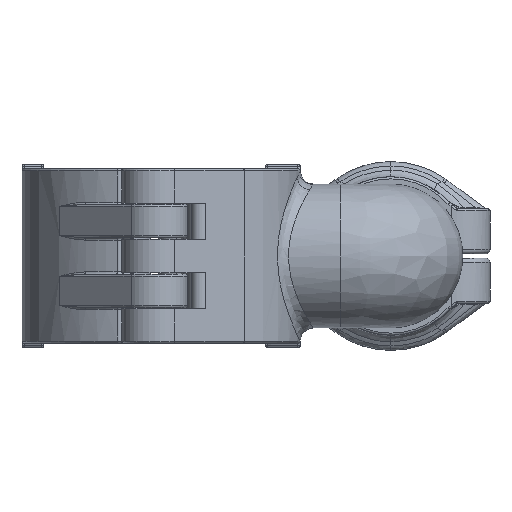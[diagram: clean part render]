
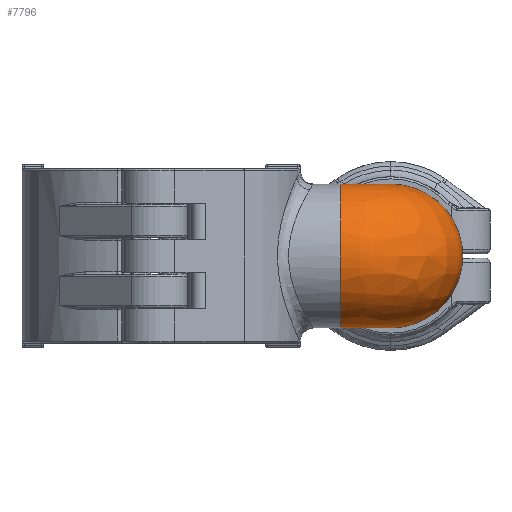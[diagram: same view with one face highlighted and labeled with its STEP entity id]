
A CAD part, left-side view. The second image highlights one B-rep face of the part: STEP entity #7796.
In plain terms, the highlighted free-form (B-spline) face has degree [3, 3] with [4, 7] control points.
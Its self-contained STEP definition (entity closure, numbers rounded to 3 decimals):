
#3087=CARTESIAN_POINT('',(8.93,-43.208,14.107));
#3172=CARTESIAN_POINT('',(0.,-43.209,
0.));
#3173=DIRECTION('',(0.,1.,0.));
#3174=DIRECTION('',(0.535,0.,-0.845));
#3175=AXIS2_PLACEMENT_3D('',#3172,#3173,#3174);
#3180=CARTESIAN_POINT('',(0.,-43.209,
0.));
#3181=DIRECTION('',(0.,1.,0.));
#3182=DIRECTION('',(0.,0.,-1.));
#3183=AXIS2_PLACEMENT_3D('',#3180,#3181,#3182);
#3188=CARTESIAN_POINT('',(0.,-43.209,
0.));
#3189=DIRECTION('',(0.,1.,0.));
#3190=DIRECTION('',(0.,0.,1.));
#3191=AXIS2_PLACEMENT_3D('',#3188,#3189,#3190);
#3196=CARTESIAN_POINT('',(8.93,-43.208,14.107));
#3197=CARTESIAN_POINT('',(9.012,-43.487,14.055));
#3198=CARTESIAN_POINT('',(9.227,-44.001,13.973));
#3199=CARTESIAN_POINT('',(9.652,-44.642,13.912));
#3200=CARTESIAN_POINT('',(10.236,-45.22,13.914));
#3201=CARTESIAN_POINT('',(10.867,-45.627,13.976));
#3202=CARTESIAN_POINT('',(11.367,-45.836,14.057));
#3203=CARTESIAN_POINT('',(11.637,-45.915,14.107));
#3208=CARTESIAN_POINT('',(11.637,-54.845,
0.));
#3209=DIRECTION('',(1.,0.,0.));
#3210=DIRECTION('',(0.,0.535,0.845));
#3211=AXIS2_PLACEMENT_3D('',#3208,#3209,#3210);
#3216=CARTESIAN_POINT('',(11.637,-54.845,
0.));
#3217=DIRECTION('',(1.,0.,0.));
#3218=DIRECTION('',(0.,0.,1.));
#3219=AXIS2_PLACEMENT_3D('',#3216,#3217,#3218);
#3224=CARTESIAN_POINT('',(11.637,-54.845,
0.));
#3225=DIRECTION('',(1.,0.,0.));
#3226=DIRECTION('',(0.,0.,-1.));
#3227=AXIS2_PLACEMENT_3D('',#3224,#3225,#3226);
#3232=CARTESIAN_POINT('',(11.637,-45.915,
-14.107));
#3233=CARTESIAN_POINT('',(11.358,-45.833,
-14.056));
#3234=CARTESIAN_POINT('',(10.844,-45.618,
-13.973));
#3235=CARTESIAN_POINT('',(10.202,-45.192,
-13.912));
#3236=CARTESIAN_POINT('',(9.624,-44.608,
-13.915));
#3237=CARTESIAN_POINT('',(9.218,-43.978,
-13.976));
#3238=CARTESIAN_POINT('',(9.01,-43.478,
-14.057));
#3239=CARTESIAN_POINT('',(8.93,-43.208,
-14.107));
#4112=CARTESIAN_POINT('',(0.,-43.209,
-16.696));
#4114=VERTEX_POINT('',#4112);
#4115=CARTESIAN_POINT('',(8.93,-43.208,
-14.107));
#4116=VERTEX_POINT('',#4115);
#4117=VERTEX_POINT('',#3087);
#4118=CARTESIAN_POINT('',(0.,-43.209,
16.696));
#4119=VERTEX_POINT('',#4118);
#4120=VERTEX_POINT('',#3203);
#4121=CARTESIAN_POINT('',(11.637,-54.845,16.696));
#4122=VERTEX_POINT('',#4121);
#4123=CARTESIAN_POINT('',(11.637,-54.845,
-16.696));
#4124=VERTEX_POINT('',#4123);
#4125=CARTESIAN_POINT('',(11.637,-45.915,
-14.107));
#4126=VERTEX_POINT('',#4125);
#7752=CARTESIAN_POINT('',(11.72,-44.449,13.067));
#7753=CARTESIAN_POINT('',(12.563,-57.015,23.085));
#7754=CARTESIAN_POINT('',(13.533,-71.478,16.094));
#7755=CARTESIAN_POINT('',(13.533,-71.478,
0.));
#7756=CARTESIAN_POINT('',(13.533,-71.478,
-16.093));
#7757=CARTESIAN_POINT('',(12.563,-57.015,
-23.085));
#7758=CARTESIAN_POINT('',(11.72,-44.449,
-13.067));
#7759=CARTESIAN_POINT('',(10.914,-44.503,13.067));
#7760=CARTESIAN_POINT('',(3.589,-57.617,23.085));
#7761=CARTESIAN_POINT('',(-4.842,-72.71,
16.094));
#7762=CARTESIAN_POINT('',(-4.842,-72.71,
0.));
#7763=CARTESIAN_POINT('',(-4.842,-72.711,
-16.093));
#7764=CARTESIAN_POINT('',(3.588,-57.617,
-23.085));
#7765=CARTESIAN_POINT('',(10.914,-44.503,
-13.067));
#7766=CARTESIAN_POINT('',(10.343,-43.931,13.067));
#7767=CARTESIAN_POINT('',(-2.772,-51.257,
23.085));
#7768=CARTESIAN_POINT('',(-17.865,-59.688,
16.094));
#7769=CARTESIAN_POINT('',(-17.865,-59.688,
0.));
#7770=CARTESIAN_POINT('',(-17.865,-59.688,
-16.093));
#7771=CARTESIAN_POINT('',(-2.772,-51.257,
-23.085));
#7772=CARTESIAN_POINT('',(10.343,-43.931,
-13.067));
#7773=CARTESIAN_POINT('',(10.397,-43.125,13.067));
#7774=CARTESIAN_POINT('',(-2.17,-42.283,
23.085));
#7775=CARTESIAN_POINT('',(-16.633,-41.313,
16.094));
#7776=CARTESIAN_POINT('',(-16.633,-41.313,
0.));
#7777=CARTESIAN_POINT('',(-16.633,-41.313,
-16.093));
#7778=CARTESIAN_POINT('',(-2.17,-42.283,
-23.085));
#7779=CARTESIAN_POINT('',(10.397,-43.125,
-13.067));
#7780=(BOUNDED_SURFACE()B_SPLINE_SURFACE(3,3,((#7752,#7753,#7754,#7755,#7756,
#7757,#7758),(#7759,#7760,#7761,#7762,#7763,#7764,#7765),(#7766,#7767,#7768,
#7769,#7770,#7771,#7772),(#7773,#7774,#7775,#7776,#7777,#7778,#7779)),
.UNSPECIFIED.,.F.,.F.,.F.)B_SPLINE_SURFACE_WITH_KNOTS((4,4),(4,3,4),(0.,1.),
(0.,1.,2.),.UNSPECIFIED.)GEOMETRIC_REPRESENTATION_ITEM()RATIONAL_B_SPLINE_SURFACE(((1.682,1.048,1.048,1.682,
1.048,1.048,1.682),(1.298,
0.809,0.809,1.298,0.809,
0.809,1.298),(1.298,0.809,
0.809,1.298,0.809,0.809,
1.298),(1.682,1.048,1.048,
1.682,1.048,1.048,1.682)))REPRESENTATION_ITEM('')SURFACE());
#7781=ORIENTED_EDGE('',*,*,#7725,.T.);
#7782=ORIENTED_EDGE('',*,*,#7744,.T.);
#7783=ORIENTED_EDGE('',*,*,#7729,.T.);
#7785=ORIENTED_EDGE('',*,*,#7784,.T.);
#7787=ORIENTED_EDGE('',*,*,#7786,.T.);
#7789=ORIENTED_EDGE('',*,*,#7788,.T.);
#7791=ORIENTED_EDGE('',*,*,#7790,.T.);
#7793=ORIENTED_EDGE('',*,*,#7792,.T.);
#7794=EDGE_LOOP('',(#7781,#7782,#7783,#7785,#7787,#7789,#7791,#7793));
#7795=FACE_OUTER_BOUND('',#7794,.F.);
#3176=CIRCLE('',#3175,16.696);
#3184=CIRCLE('',#3183,16.696);
#3192=CIRCLE('',#3191,16.696);
#3204=B_SPLINE_CURVE_WITH_KNOTS('',3,(#3196,#3197,#3198,#3199,#3200,#3201,#3202,
#3203),.UNSPECIFIED.,.F.,.F.,(4,1,1,1,1,4),(0.,0.2,0.4,0.6,0.8,1.),
.UNSPECIFIED.);
#3212=CIRCLE('',#3211,16.696);
#3220=CIRCLE('',#3219,16.696);
#3228=CIRCLE('',#3227,16.696);
#3240=B_SPLINE_CURVE_WITH_KNOTS('',3,(#3232,#3233,#3234,#3235,#3236,#3237,#3238,
#3239),.UNSPECIFIED.,.F.,.F.,(4,1,1,1,1,4),(0.,0.2,0.4,0.6,0.8,1.),
.UNSPECIFIED.);
#7725=EDGE_CURVE('',#4116,#4114,#3176,.T.);
#7729=EDGE_CURVE('',#4119,#4117,#3192,.T.);
#7744=EDGE_CURVE('',#4114,#4119,#3184,.T.);
#7784=EDGE_CURVE('',#4117,#4120,#3204,.T.);
#7786=EDGE_CURVE('',#4120,#4122,#3212,.T.);
#7788=EDGE_CURVE('',#4122,#4124,#3220,.T.);
#7790=EDGE_CURVE('',#4124,#4126,#3228,.T.);
#7792=EDGE_CURVE('',#4126,#4116,#3240,.T.);
#7796=ADVANCED_FACE('',(#7795),#7780,.T.);
